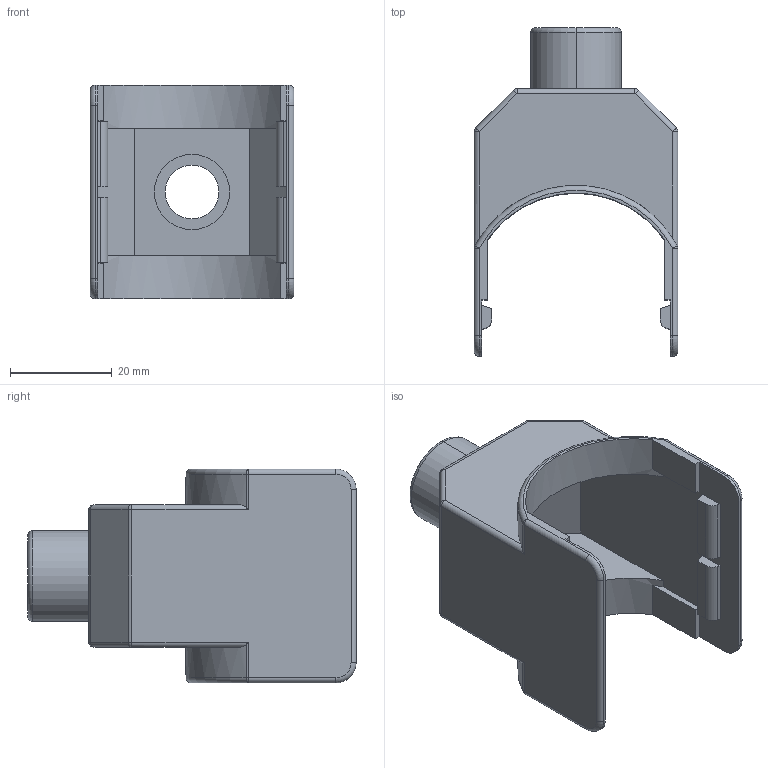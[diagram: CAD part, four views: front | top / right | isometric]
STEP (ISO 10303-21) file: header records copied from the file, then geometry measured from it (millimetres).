
FILE_DESCRIPTION (( 'STEP AP214' ), '1' );
FILE_NAME ('4.520.001.06.STEP', '2016-12-16T11:43:36', ( '' ), ( '' ), 'SwSTEP 2.0', 'SolidWorks 2015', '' );
FILE_SCHEMA (( 'AUTOMOTIVE_DESIGN' ));
Length unit declared in the file: millimetre
Products named in the file (1): 4.520.001.06
Bounding box: 40 x 64.5 x 42 mm (x, y, z)
Volume: 11183.1 mm3; surface area: 14590.6 mm2
Topology: 1 solids, 1 shells, 114 faces, 276 edges, 166 vertices
Faces by surface type: plane 52, cylinder 42, sphere 12, torus 8
Entity records: 3320 total; most frequent: CARTESIAN_POINT 593, DIRECTION 588, ORIENTED_EDGE 544, EDGE_CURVE 272, AXIS2_PLACEMENT_3D 209, VECTOR 170, LINE 170, VERTEX_POINT 166
